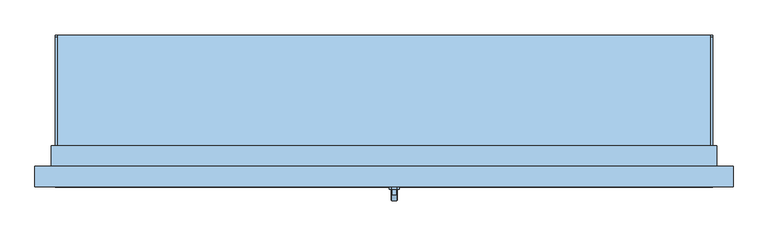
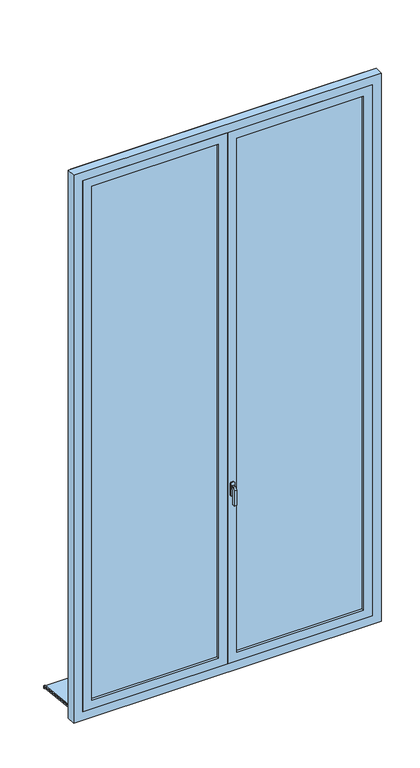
"""IFC4 building model written with IfcOpenShell, lengths in millimetres: window geometry, Fenêtres - PF 2 Vantaux - Droits - 1.60 x 3.15."""

import ifcopenshell
import ifcopenshell.guid

model = None  # the IFC model being written
_history = None  # IfcOwnerHistory: only IFC2X3 demands one
_inside = {}  # id of a spatial element -> (the spatial element, [elements in it])
_under = {}  # id of a project, library or spatial element -> (it, [spatial elements below it])
_declared = {}  # id of a project -> (the project, [libraries it declares])
_typed = {}  # id of a type object -> (the type object, [elements of that type])
_made_of = {}  # id of a material, layer set ... -> (it, [elements and type objects made of it])


def new_model(schema):
    """Start an empty IFC model of exactly this schema.

    Asked for "IFC4X3", IfcOpenShell would pick the latest addendum, in which some entities
    have other attributes; the version numbers below select the first issue.
    IFC2X3 requires an IfcOwnerHistory on every rooted entity: one is made here for all.
    """
    global model, _history
    if schema == "IFC4X3":
        model = ifcopenshell.file(schema_version=(4, 3, 0, 0))
    else:
        model = ifcopenshell.file(schema=schema)
    _inside.clear()
    _under.clear()
    _declared.clear()
    _typed.clear()
    _made_of.clear()
    _history = None
    if model.schema == "IFC2X3":
        org = make("IfcOrganization", Name="unknown")
        user = make(
            "IfcPersonAndOrganization",
            ThePerson=make("IfcPerson", FamilyName="unknown"),
            TheOrganization=org,
        )
        app = make(
            "IfcApplication",
            ApplicationDeveloper=org,
            Version="unknown",
            ApplicationFullName="unknown",
            ApplicationIdentifier="unknown",
        )
        _history = make(
            "IfcOwnerHistory",
            OwningUser=user,
            OwningApplication=app,
            ChangeAction="ADDED",
            CreationDate=0,
        )
    return model


def make(cls, **values):
    """One entity of the class cls with the attributes given. An attribute that is None is left unset."""
    return model.create_entity(
        cls, **{name: value for name, value in values.items() if value is not None}
    )


def rooted(cls, **values):
    """An entity with a GlobalId (a new one), such as an element, a storey or a relation."""
    return make(cls, GlobalId=ifcopenshell.guid.new(), OwnerHistory=_history, **values)


def si_unit(unit_type, name, prefix=None):
    """IfcSIUnit, for example si_unit("LENGTHUNIT", "METRE", prefix="MILLI")."""
    return make("IfcSIUnit", UnitType=unit_type, Prefix=prefix, Name=name)


def assignment(units):
    """IfcUnitAssignment: the units of a project."""
    return None if units is None else make("IfcUnitAssignment", Units=units)


def point(xyz):
    """IfcCartesianPoint."""
    return None if xyz is None else make("IfcCartesianPoint", Coordinates=xyz)


def direction(xyz):
    """IfcDirection."""
    return None if xyz is None else make("IfcDirection", DirectionRatios=xyz)


def frame(location, z_axis=None, x_axis=None):
    """IfcAxis2Placement3D, a coordinate frame: its origin and axes. An axis left out is left unset."""
    return make(
        "IfcAxis2Placement3D",
        Location=point(location),
        Axis=direction(z_axis),
        RefDirection=direction(x_axis),
    )


def frame_2d(location, x_axis=None):
    """IfcAxis2Placement2D, a coordinate frame in the plane: its origin and x axis."""
    return make(
        "IfcAxis2Placement2D", Location=point(location), RefDirection=direction(x_axis)
    )


def origin():
    """The frame at (0, 0, 0) with its axes left unset."""
    return frame((0.0, 0.0, 0.0))


def place(relative_to, where):
    """IfcLocalPlacement: puts the frame where relative to a parent placement (None: the world)."""
    return make(
        "IfcLocalPlacement", PlacementRelTo=relative_to, RelativePlacement=where
    )


def context(
    kind, dimensions, precision=None, world=None, true_north=None, identifier=None
):
    """IfcGeometricRepresentationContext, for example the 3D "Model" context."""
    return make(
        "IfcGeometricRepresentationContext",
        ContextIdentifier=identifier,
        ContextType=kind,
        CoordinateSpaceDimension=dimensions,
        Precision=precision,
        WorldCoordinateSystem=world,
        TrueNorth=true_north,
    )


def project(units=None, contexts=None):
    """IfcProject with its units and contexts."""
    return rooted(
        "IfcProject",
        Name="project",
        RepresentationContexts=contexts,
        UnitsInContext=assignment(units),
    )


def spatial(cls, under=None, at=None, **own):
    """A site, building, storey or space (cls), placed at a placement, below another one or the project."""
    s = rooted(cls, ObjectPlacement=at, **own)
    if under is not None:
        _under.setdefault(under.id(), (under, []))[1].append(s)
    return s


def polyline(points):
    """IfcPolyline through the points."""
    return make("IfcPolyline", Points=[point(p) for p in points])


def circle_curve(where, radius):
    """IfcCircle in the frame where."""
    return make("IfcCircle", Position=where, Radius=radius)


def trimmed(basis, trim1, trim2, sense, master):
    """IfcTrimmedCurve: the piece of a basis curve between two trims."""
    return make(
        "IfcTrimmedCurve",
        BasisCurve=basis,
        Trim1=trim1,
        Trim2=trim2,
        SenseAgreement=sense,
        MasterRepresentation=master,
    )


def segment(curve, same_sense, transition):
    """IfcCompositeCurveSegment."""
    return make(
        "IfcCompositeCurveSegment",
        Transition=transition,
        SameSense=same_sense,
        ParentCurve=curve,
    )


def composite_curve(segments, self_intersect=None):
    """IfcCompositeCurve: segments joined end to end."""
    return make("IfcCompositeCurve", Segments=segments, SelfIntersect=self_intersect)


def outline(outer, holes=None, kind="AREA"):
    """IfcArbitraryClosedProfileDef: a profile drawn as a closed curve; with holes, ...WithVoids."""
    if holes is None:
        return make("IfcArbitraryClosedProfileDef", ProfileType=kind, OuterCurve=outer)
    return make(
        "IfcArbitraryProfileDefWithVoids",
        ProfileType=kind,
        OuterCurve=outer,
        InnerCurves=holes,
    )


def extrude(swept, where, along, depth):
    """IfcExtrudedAreaSolid: the profile swept, set in the frame where, extruded along a direction by depth."""
    return make(
        "IfcExtrudedAreaSolid",
        SweptArea=swept,
        Position=where,
        ExtrudedDirection=direction(along),
        Depth=depth,
    )


def faces_of(points, faces, orient=None, outer=None):
    """IfcFace entities. A face is a list of loops; a loop is a list of indices into points, from 0.

    orient and outer hold one flag for each loop. By default every Orientation is true, the
    first loop of a face is its IfcFaceOuterBound and the others are IfcFaceBound.
    """
    made = []
    for i, loops in enumerate(faces):
        bounds = []
        for j, loop in enumerate(loops):
            is_outer = j == 0 if outer is None else outer[i][j]
            bounds.append(
                make(
                    "IfcFaceOuterBound" if is_outer else "IfcFaceBound",
                    Bound=make("IfcPolyLoop", Polygon=[points[k] for k in loop]),
                    Orientation=True if orient is None else orient[i][j],
                )
            )
        made.append(make("IfcFace", Bounds=bounds))
    return made


def faceted_brep(points, faces, orient=None, outer=None, voids=None):
    """IfcFacetedBrep: a solid bounded by flat faces; with voids (closed shells), ...WithVoids."""
    shared = [point(p) for p in points]
    hull = make("IfcClosedShell", CfsFaces=faces_of(shared, faces, orient, outer))
    if voids is None:
        return make("IfcFacetedBrep", Outer=hull)
    return make(
        "IfcFacetedBrepWithVoids",
        Outer=hull,
        Voids=[
            make(cls, CfsFaces=faces_of(shared, fs, o, b)) for cls, fs, o, b in voids
        ],
    )


def shape(context_of_items, identifier, shape_type, items):
    """IfcShapeRepresentation: the items that make up one representation, for example the "Body"."""
    return make(
        "IfcShapeRepresentation",
        ContextOfItems=context_of_items,
        RepresentationIdentifier=identifier,
        RepresentationType=shape_type,
        Items=items,
    )


def source(mapping_origin, context_of_items, identifier, shape_type, items):
    """IfcRepresentationMap: a shape defined once, which mapped items show again and again."""
    return make(
        "IfcRepresentationMap",
        MappingOrigin=mapping_origin,
        MappedRepresentation=shape(context_of_items, identifier, shape_type, items),
    )


def transform(
    local_origin,
    x_axis=None,
    y_axis=None,
    z_axis=None,
    scale=None,
    scale2=None,
    scale3=None,
    uniform=True,
):
    """IfcCartesianTransformationOperator3D, or its non-uniform kind. x_axis, y_axis, z_axis: its Axis1, 2, 3."""
    if uniform:
        return make(
            "IfcCartesianTransformationOperator3D",
            Axis1=direction(x_axis),
            Axis2=direction(y_axis),
            LocalOrigin=point(local_origin),
            Scale=scale,
            Axis3=direction(z_axis),
        )
    return make(
        "IfcCartesianTransformationOperator3DnonUniform",
        Axis1=direction(x_axis),
        Axis2=direction(y_axis),
        LocalOrigin=point(local_origin),
        Scale=scale,
        Axis3=direction(z_axis),
        Scale2=scale2,
        Scale3=scale3,
    )


def mapped(mapping_source, mapping_target):
    """IfcMappedItem: shows the shape of a source again, moved by a transform."""
    return make(
        "IfcMappedItem", MappingSource=mapping_source, MappingTarget=mapping_target
    )


def made_of(thing, what):
    """Note that an element or type object is made of a material, layer set ...; save() writes the relation."""
    if what is not None:
        _made_of.setdefault(what.id(), (what, []))[1].append(thing)
    return thing


def element(
    cls,
    number,
    at=None,
    inside=None,
    cuts=None,
    type_object=None,
    material=None,
    context=None,
    identifier="Body",
    shape_type=None,
    held_by="IfcProductDefinitionShape",
    body=None,
    shapes=None,
    **own,
):
    """One element of the class cls, such as IfcWall. Its Tag is "e" and its number.

    at: its placement. inside: the storey or other place that contains it. cuts: it is an
    opening in that element (IfcRelVoidsElement). A single representation is given by context,
    identifier, shape_type and body (its items); several are given by shapes. held_by: the class
    of the entity that holds the representations. save() writes the other relations.
    """
    e = rooted(cls, Tag="e%d" % number, ObjectPlacement=at, **own)
    if body is not None:
        shapes = [shape(context, identifier, shape_type, body)]
    if shapes is not None:
        e.Representation = make(held_by, Representations=shapes)
    if inside is not None:
        _inside.setdefault(inside.id(), (inside, []))[1].append(e)
    if cuts is not None:
        rooted(
            "IfcRelVoidsElement", RelatingBuildingElement=cuts, RelatedOpeningElement=e
        )
    if type_object is not None:
        _typed.setdefault(type_object.id(), (type_object, []))[1].append(e)
    return made_of(e, material)


def aggregate(whole, parts):
    """IfcRelAggregates: a whole, such as a stair, and the parts it consists of."""
    return rooted("IfcRelAggregates", RelatingObject=whole, RelatedObjects=parts)


def save(model, path):
    """Write the relations noted so far, then the file.

    IfcRelAggregates (storeys below a building ...), IfcRelContainedInSpatialStructure (elements
    in a storey), IfcRelDefinesByType, IfcRelAssociatesMaterial and IfcRelDeclares: one each for
    every whole, place, type object, material and project.
    """
    for whole, parts in _under.values():
        aggregate(whole, parts)
    for where, things in _inside.values():
        rooted(
            "IfcRelContainedInSpatialStructure",
            RelatedElements=things,
            RelatingStructure=where,
        )
    for kind, things in _typed.values():
        rooted("IfcRelDefinesByType", RelatedObjects=things, RelatingType=kind)
    for what, things in _made_of.values():
        rooted("IfcRelAssociatesMaterial", RelatedObjects=things, RelatingMaterial=what)
    for by, libraries in _declared.values():
        rooted("IfcRelDeclares", RelatingContext=by, RelatedDefinitions=libraries)
    model.write(path)


def window_4ef66e8a(model_context):
    return source(origin(), model_context, "Body", "SolidModel", [
        extrude(outline(polyline([(690.0288776, 9.7719484), (690.0288776, -1.3062541), (685.0288776, -0.7807329), (685.0288776, 5.0422578), (400.0, 35.0), (400.0, 50.0), (405.0, 50.0), (405.0, 39.7296906), (690.0288776, 9.7719484)])), frame((50.0, 0.0, 0.0), z_axis=(1.0, 0.0, 0.0), x_axis=(0.0, 1.0, 0.0)), (0.0, 0.0, 1.0), 1600.0),
        extrude(outline(composite_curve([segment(polyline([(690.0288776, 9.7719484), (405.0, 39.7296906), (405.0, 44.757232), (686.4469915, 15.1759612)]), True, "CONTINUOUS"), segment(trimmed(circle_curve(frame_2d((686.0288776, 11.1978736)), 4.0), [point((686.4469915, 15.1759612))], [point((690.0288776, 11.1978736))], False, "CARTESIAN"), True, "CONTINUOUS"), segment(polyline([(690.0288776, 11.1978736), (690.0288776, 9.7719484)]), True, "CONTINUOUS")], self_intersect=False)), frame((50.0, 0.0, 0.0), z_axis=(1.0, 0.0, 0.0), x_axis=(0.0, 1.0, 0.0)), (0.0, 0.0, 1.0), 5.0),
        extrude(outline(composite_curve([segment(polyline([(690.0288776, 9.7719484), (405.0, 39.7296906), (405.0, 44.757232), (686.4469915, 15.1759612)]), True, "CONTINUOUS"), segment(trimmed(circle_curve(frame_2d((686.0288776, 11.1978736)), 4.0), [point((686.4469915, 15.1759612))], [point((690.0288776, 11.1978736))], False, "CARTESIAN"), True, "CONTINUOUS"), segment(polyline([(690.0288776, 11.1978736), (690.0288776, 9.7719484)]), True, "CONTINUOUS")], self_intersect=False)), frame((1645.0, 0.0, 0.0), z_axis=(1.0, 0.0, 0.0), x_axis=(0.0, 1.0, 0.0)), (0.0, 0.0, 1.0), 5.0),
        extrude(outline(polyline([(85.0, 850.0), (3185.0, 850.0), (3185.0, 50.0), (85.0, 50.0), (85.0, 850.0)]), holes=[polyline([(135.0, 100.0), (3135.0, 100.0), (3135.0, 800.0), (135.0, 800.0), (135.0, 100.0)])]), frame((0.0, 320.0, 0.0), z_axis=(0.0, 1.0, 0.0), x_axis=(0.0, 0.0, 1.0)), (0.0, 0.0, 1.0), 40.0),
        extrude(outline(polyline([(900.0, 346.0), (1600.0, 346.0), (1600.0, 334.0), (900.0, 334.0), (900.0, 346.0)])), frame((0.0, 0.0, 135.0), z_axis=(0.0, 0.0, 1.0), x_axis=(1.0, 0.0, 0.0)), (0.0, 0.0, 1.0), 3000.0),
        extrude(outline(polyline([(100.0, 346.0), (800.0, 346.0), (800.0, 334.0), (100.0, 334.0), (100.0, 346.0)])), frame((0.0, 0.0, 135.0), z_axis=(0.0, 0.0, 1.0), x_axis=(1.0, 0.0, 0.0)), (0.0, 0.0, 1.0), 3000.0),
        extrude(outline(polyline([(85.0, 1650.0), (3185.0, 1650.0), (3185.0, 850.0), (85.0, 850.0), (85.0, 1650.0)]), holes=[polyline([(135.0, 900.0), (3135.0, 900.0), (3135.0, 1600.0), (135.0, 1600.0), (135.0, 900.0)])]), frame((0.0, 320.0, 0.0), z_axis=(0.0, 1.0, 0.0), x_axis=(0.0, 0.0, 1.0)), (0.0, 0.0, 1.0), 40.0),
        extrude(outline(polyline([(35.0, 40.0), (35.0, 50.0), (3185.0, 50.0), (3185.0, 1650.0), (35.0, 1650.0), (35.0, 1660.0), (3195.0, 1660.0), (3195.0, 40.0), (35.0, 40.0)])), frame((0.0, 370.0, 0.0), z_axis=(0.0, 1.0, 0.0), x_axis=(0.0, 0.0, 1.0)), (0.0, 0.0, 1.0), 50.0),
        extrude(outline(polyline([(870.0, 368.0), (870.0, 360.0), (830.0, 360.0), (830.0, 368.0), (870.0, 368.0)])), frame((0.0, 0.0, 100.0), z_axis=(0.0, 0.0, 1.0), x_axis=(1.0, 0.0, 0.0)), (0.0, 0.0, 1.0), 3070.0),
        faceted_brep([(869.3539903, 314.0, 1122.0339292), (880.6460097, 314.0, 1122.0339292), (882.0339292, 314.0, 1120.6460097), (882.0339292, 314.0, 1109.3323012), (880.6676988, 314.0, 1107.9660708), (869.3323012, 314.0, 1107.9660708), (867.9660708, 314.0, 1109.3323012), (867.9660708, 314.0, 1120.6460097), (882.0339292, 301.6613462, 1120.6460097), (880.6460097, 301.0864511, 1122.0339292), (882.0339292, 306.3476377, 1109.3323012), (882.0339292, 288.3539903, 1107.3386538), (882.0339292, 288.3539903, 1020.0), (882.0339292, 299.6676988, 1020.0), (882.0339292, 299.6676988, 1102.6523623), (880.6676988, 306.9135489, 1107.9660708), (869.3323012, 306.9135489, 1107.9660708), (867.9660708, 306.3476377, 1109.3323012), (867.9660708, 301.6613462, 1120.6460097), (867.9660708, 299.6676988, 1102.6523623), (867.9660708, 299.6676988, 1020.0), (867.9660708, 288.3539903, 1020.0), (867.9660708, 288.3539903, 1107.3386538), (869.3539903, 301.0864511, 1122.0339292), (880.6460097, 286.9660708, 1107.9135489), (880.6676988, 301.0339292, 1102.0864511), (869.3323012, 301.0339292, 1102.0864511), (869.3539903, 286.9660708, 1107.9135489), (880.6460097, 286.9660708, 1020.0), (869.3539903, 286.9660708, 1020.0), (869.3323012, 301.0339292, 1020.0), (880.6676988, 301.0339292, 1020.0)], [[[0, 1, 2, 3, 4, 5, 6, 7]], [[8, 2, 1, 9]], [[10, 3, 2, 8, 11, 12, 13, 14]], [[15, 4, 3, 10]], [[16, 5, 4, 15]], [[17, 6, 5, 16]], [[18, 7, 6, 17, 19, 20, 21, 22]], [[23, 0, 7, 18]], [[9, 1, 0, 23]], [[11, 8, 9, 24]], [[25, 15, 10, 14]], [[26, 16, 15, 25]], [[19, 17, 16, 26]], [[27, 23, 18, 22]], [[24, 9, 23, 27]], [[12, 28, 29, 21, 20, 30, 31, 13]], [[12, 11, 24, 28]], [[31, 25, 14, 13]], [[30, 26, 25, 31]], [[20, 19, 26, 30]], [[29, 27, 22, 21]], [[28, 24, 27, 29]]]),
        faceted_brep([(1700.0, 320.0, 35.0), (0.0, 320.0, 35.0), (0.0, 370.0, 35.0), (50.0, 370.0, 35.0), (50.0, 400.0, 35.0), (1650.0, 400.0, 35.0), (1650.0, 370.0, 35.0), (1700.0, 370.0, 35.0), (0.0, 370.0, 3235.0), (0.0, 320.0, 3235.0), (1700.0, 370.0, 3235.0), (1650.0, 370.0, 74.3761425), (50.0, 370.0, 74.3761425), (1635.0, 370.0, 3170.0), (65.0, 370.0, 3170.0), (65.0, 370.0, 100.0), (1635.0, 370.0, 100.0), (50.0, 420.0, 60.9786829), (50.0, 420.0, 45.0), (50.0, 410.0, 45.0), (50.0, 410.0, 50.0), (50.0, 400.0, 50.0), (1650.0, 400.0, 50.0), (1650.0, 410.0, 50.0), (1650.0, 410.0, 45.0), (1650.0, 420.0, 45.0), (1650.0, 420.0, 60.9786829), (1700.0, 320.0, 3235.0), (50.0, 320.0, 3185.0), (1650.0, 320.0, 3185.0), (1650.0, 320.0, 85.0), (50.0, 320.0, 85.0), (65.0, 360.0, 3170.0), (65.0, 360.0, 100.0), (1635.0, 360.0, 100.0), (1635.0, 360.0, 3170.0), (1650.0, 360.0, 85.0), (1650.0, 360.0, 3185.0), (50.0, 360.0, 3185.0), (50.0, 360.0, 85.0)], [[[0, 1, 2, 3, 4, 5, 6, 7]], [[8, 2, 1, 9]], [[3, 2, 8, 10, 7, 6, 11, 12], [13, 14, 15, 16]], [[3, 12, 17, 18, 19, 20, 21, 4]], [[5, 4, 21, 22]], [[6, 5, 22, 23, 24, 25, 26, 11]], [[0, 7, 10, 27]], [[9, 1, 0, 27], [28, 29, 30, 31]], [[15, 14, 32, 33]], [[15, 33, 34, 16]], [[34, 35, 13, 16]], [[26, 17, 12, 11]], [[36, 37, 38, 39], [33, 32, 35, 34]], [[31, 39, 38, 28]], [[39, 31, 30, 36]], [[30, 29, 37, 36]], [[25, 18, 17, 26]], [[24, 19, 18, 25]], [[23, 20, 19, 24]], [[22, 21, 20, 23]], [[32, 14, 13, 35]], [[28, 38, 37, 29]], [[27, 10, 8, 9]]]),
        extrude(outline(polyline([(1140.0, 882.0), (1140.0, 868.0), (1135.0, 863.0), (1065.0, 863.0), (1060.0, 868.0), (1060.0, 882.0), (1065.0, 887.0), (1135.0, 887.0), (1140.0, 882.0)])), frame((0.0, 314.0, 0.0), z_axis=(0.0, 1.0, 0.0), x_axis=(0.0, 0.0, 1.0)), (0.0, 0.0, 1.0), 6.0),
    ])


if __name__ == "__main__":
    model = new_model("IFC4")
    model_context = context("Model", 3, world=origin())
    ifc_project = project(units=[si_unit("LENGTHUNIT", "METRE", prefix="MILLI")], contexts=[model_context])
    site = spatial("IfcSite", under=ifc_project)
    building = spatial("IfcBuilding", under=site)
    placement = place(None, origin())
    window_shape = window_4ef66e8a(model_context)
    element("IfcWindow", 1, ObjectType="Fenêtres - PF 2 Vantaux - Droits - 1.60 x 3.15", at=placement, inside=building, context=model_context, shape_type="MappedRepresentation", body=[
        mapped(window_shape, transform((0.0, 0.0, 0.0), x_axis=(1.0, 0.0, 0.0), y_axis=(0.0, 1.0, 0.0), z_axis=(0.0, 0.0, 1.0))),
    ])
    save(model, "model.ifc")
